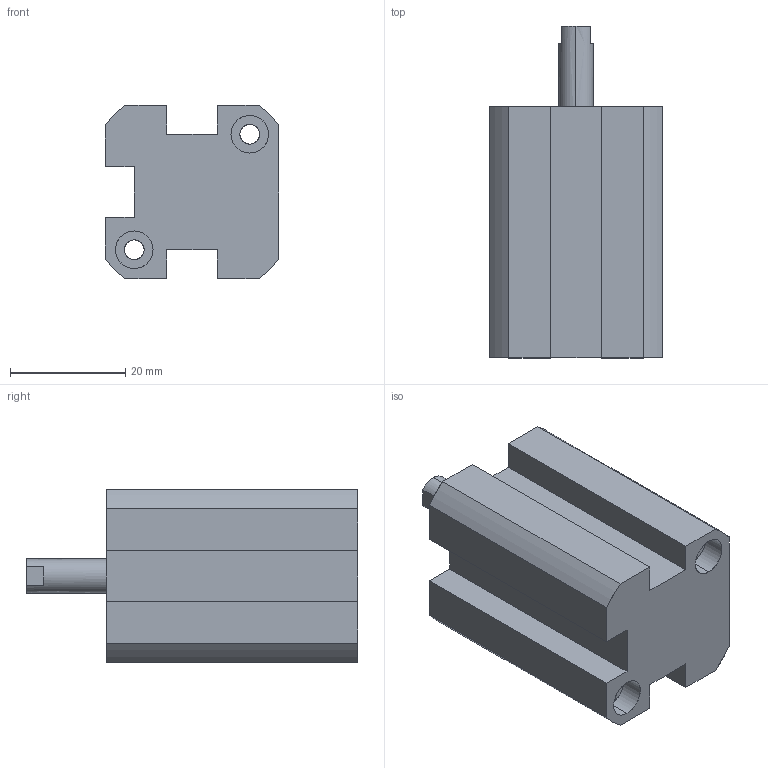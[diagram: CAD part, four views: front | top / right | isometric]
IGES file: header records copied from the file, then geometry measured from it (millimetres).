
Start section: SolidWorks IGES file using analytic representation for surfaces
Global section: file name: C:\Users\Toshiba\Desktop\XG#0-16D-10.IGS; native system: SolidWorks 2014; preprocessor: SolidWorks 2014; author: Toshiba; date: 160524.092958; units: millimetre
Bounding box: 30 x 57.5 x 30 mm (x, y, z)
Surface area: 9397.1 mm2 (no closed solid volume)
Topology: 0 solids, 0 shells, 73 faces, 1123 edges, 1119 vertices
Faces by surface type: revolution 41, bspline 32
